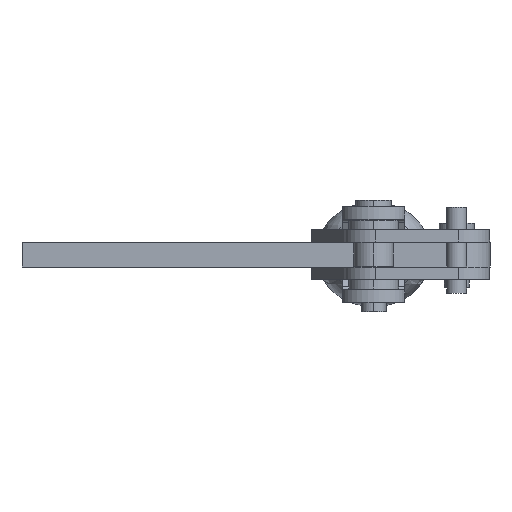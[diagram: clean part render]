
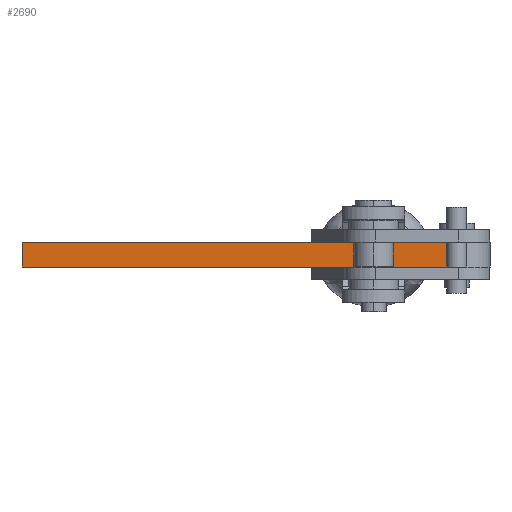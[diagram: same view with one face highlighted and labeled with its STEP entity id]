
A CAD part, front view. The second image highlights one B-rep face of the part: STEP entity #2690.
In plain terms, the highlighted planar face has unit normal (-0.003, -1, 0).
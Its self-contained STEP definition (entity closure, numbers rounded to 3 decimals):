
#1458 = VERTEX_POINT( '', #4111 );
#1868 = EDGE_CURVE( '', #3232, #1458, #4570, .T. );
#1870 = VERTEX_POINT( '', #4572 );
#2400 = EDGE_CURVE( '', #1458, #1870, #5166, .T. );
#2690 = ADVANCED_FACE( '', ( #5486 ), #5487, .T. );
#2746 = EDGE_CURVE( '', #2826, #1870, #5547, .T. );
#2826 = VERTEX_POINT( '', #5644 );
#3232 = VERTEX_POINT( '', #6088 );
#3456 = EDGE_CURVE( '', #3232, #2826, #6331, .T. );
#4111 = CARTESIAN_POINT( '', ( 27.08, 46.7, 3. ) );
#4570 = LINE( '', #7713, #7714 );
#4572 = CARTESIAN_POINT( '', ( 27.08, 46.7, -3. ) );
#5166 = LINE( '', #8524, #8525 );
#5486 = FACE_OUTER_BOUND( '', #8990, .T. );
#5487 = PLANE( '', #8991 );
#5547 = LINE( '', #9105, #9106 );
#5644 = CARTESIAN_POINT( '', ( -77.42, 46.96, -3. ) );
#6088 = CARTESIAN_POINT( '', ( -77.42, 46.96, 3. ) );
#6331 = LINE( '', #10170, #10171 );
#7713 = CARTESIAN_POINT( '', ( -77.42, 46.96, 3. ) );
#7714 = VECTOR( '', #11689, 1. );
#8524 = CARTESIAN_POINT( '', ( 27.08, 46.7, 3. ) );
#8525 = VECTOR( '', #12460, 1. );
#8990 = EDGE_LOOP( '', ( #12860, #12861, #12862, #12863 ) );
#8991 = AXIS2_PLACEMENT_3D( '', #12864, #12865, #12866 );
#9105 = CARTESIAN_POINT( '', ( -77.42, 46.96, -3. ) );
#9106 = VECTOR( '', #12924, 1. );
#10170 = CARTESIAN_POINT( '', ( -77.42, 46.96, 3. ) );
#10171 = VECTOR( '', #13854, 1. );
#11689 = DIRECTION( '', ( 1., -0.002, 0. ) );
#12460 = DIRECTION( '', ( 0., 0., -1. ) );
#12860 = ORIENTED_EDGE( '', *, *, #2746, .T. );
#12861 = ORIENTED_EDGE( '', *, *, #2400, .F. );
#12862 = ORIENTED_EDGE( '', *, *, #1868, .F. );
#12863 = ORIENTED_EDGE( '', *, *, #3456, .T. );
#12864 = CARTESIAN_POINT( '', ( -77.42, 46.96, 3. ) );
#12865 = DIRECTION( '', ( -0.002, -1., 0. ) );
#12866 = DIRECTION( '', ( -1., 0.002, 0. ) );
#12924 = DIRECTION( '', ( 1., -0.002, 0. ) );
#13854 = DIRECTION( '', ( 0., 0., -1. ) );
